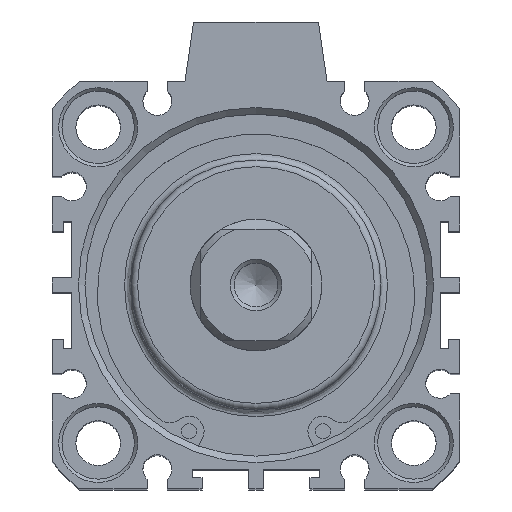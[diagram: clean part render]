
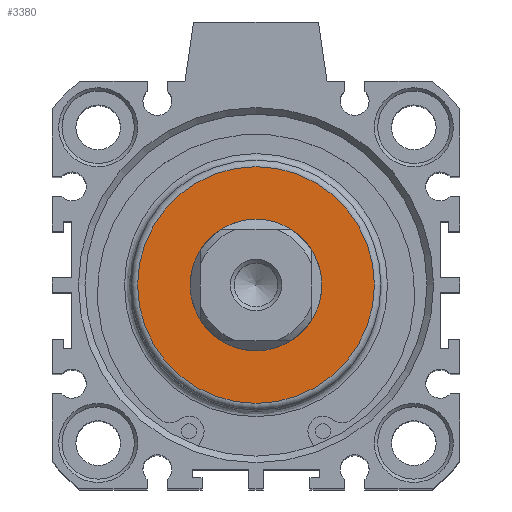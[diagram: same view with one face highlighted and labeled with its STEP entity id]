
A CAD part, top view. The second image highlights one B-rep face of the part: STEP entity #3380.
In plain terms, the highlighted planar face has unit normal (0, 0, 1).
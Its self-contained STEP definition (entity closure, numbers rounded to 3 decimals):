
#2900=CARTESIAN_POINT('',(-7.057,11.794,92.5));
#2901=VERTEX_POINT('',#2900);
#2902=CARTESIAN_POINT('',(-7.057,1.794,92.5));
#2903=DIRECTION('',(0.0,0.0,-1.0));
#2904=DIRECTION('',(0.0,1.0,0.0));
#2905=AXIS2_PLACEMENT_3D('',#2902,#2903,#2904);
#2906=CIRCLE('',#2905,10.);
#2907=EDGE_CURVE('',#2901,#2901,#2906,.T.);
#3354=CARTESIAN_POINT('',(-7.057,19.794,92.5));
#3355=VERTEX_POINT('',#3354);
#3356=CARTESIAN_POINT('',(-7.057,1.794,92.5));
#3357=DIRECTION('',(0.0,0.0,-1.0));
#3358=DIRECTION('',(0.0,-1.0,0.0));
#3359=AXIS2_PLACEMENT_3D('',#3356,#3357,#3358);
#3360=CIRCLE('',#3359,18.0);
#3361=EDGE_CURVE('',#3355,#3355,#3360,.T.);
#3369=CARTESIAN_POINT('',(-7.057,11.294,92.5));
#3370=DIRECTION('',(0.0,0.0,1.0));
#3371=DIRECTION('',(1.0,0.0,0.0));
#3372=AXIS2_PLACEMENT_3D('',#3369,#3370,#3371);
#3373=PLANE('',#3372);
#3374=ORIENTED_EDGE('',*,*,#3361,.F.);
#3375=EDGE_LOOP('',(#3374));
#3376=FACE_OUTER_BOUND('',#3375,.T.);
#3377=ORIENTED_EDGE('',*,*,#2907,.T.);
#3378=EDGE_LOOP('',(#3377));
#3379=FACE_BOUND('',#3378,.T.);
#3380=ADVANCED_FACE('',(#3376,#3379),#3373,.T.);
